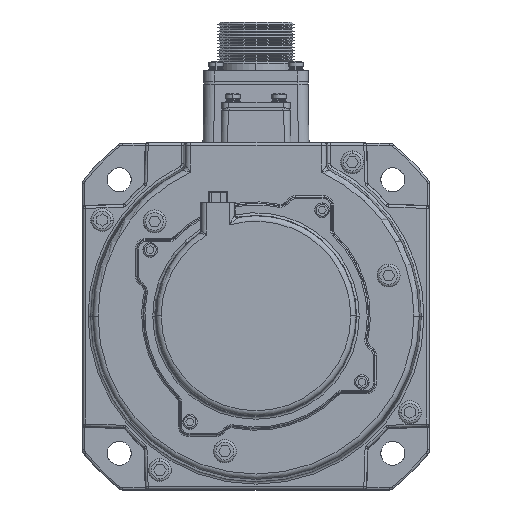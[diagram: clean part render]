
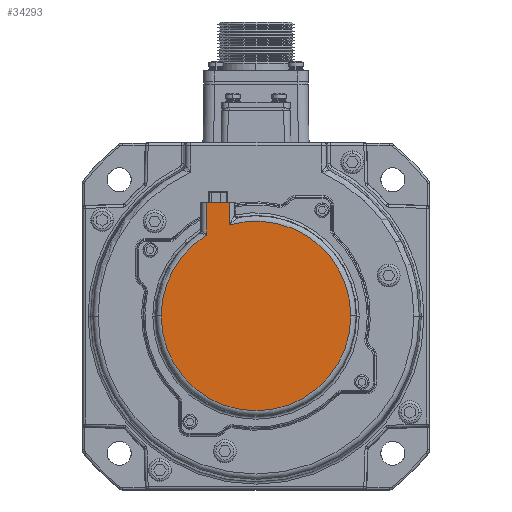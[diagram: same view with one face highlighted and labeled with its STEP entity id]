
A CAD part, top view. The second image highlights one B-rep face of the part: STEP entity #34293.
In plain terms, the highlighted planar face has unit normal (0, 0, 1).
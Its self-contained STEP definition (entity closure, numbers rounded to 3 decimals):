
#2288 = DIRECTION ( 'NONE',  ( 0., 0., 1. ) ) ;
#2920 = AXIS2_PLACEMENT_3D ( 'NONE', #64389, #39135, #6871 ) ;
#4591 = VERTEX_POINT ( 'NONE', #136120 ) ;
#5896 = EDGE_CURVE ( 'NONE', #121860, #4591, #27589, .T. ) ;
#6840 = LINE ( 'NONE', #117110, #87470 ) ;
#6871 = DIRECTION ( 'NONE',  ( 1., 0., 0. ) ) ;
#9786 = DIRECTION ( 'NONE',  ( 0., -1., 0. ) ) ;
#19199 = VERTEX_POINT ( 'NONE', #38034 ) ;
#20855 = VERTEX_POINT ( 'NONE', #66224 ) ;
#26282 = LINE ( 'NONE', #66048, #82269 ) ;
#26570 = DIRECTION ( 'NONE',  ( 0., 0., 1. ) ) ;
#27589 = CIRCLE ( 'NONE', #2920, 35.528 ) ;
#28402 = CIRCLE ( 'NONE', #114773, 35.528 ) ;
#29912 = CARTESIAN_POINT ( 'NONE',  ( -8.872, -56.273, -18.537 ) ) ;
#34293 = ADVANCED_FACE ( 'NONE', ( #63394 ), #61167, .T. ) ;
#36018 = EDGE_CURVE ( 'NONE', #115126, #92680, #28402, .T. ) ;
#38034 = CARTESIAN_POINT ( 'NONE',  ( -27.4, -13.773, -18.537 ) ) ;
#38278 = EDGE_CURVE ( 'NONE', #4591, #20855, #6840, .T. ) ;
#39135 = DIRECTION ( 'NONE',  ( 0., 0., 1. ) ) ;
#42995 = EDGE_LOOP ( 'NONE', ( #58715, #62301, #129379, #55153, #114319, #119915 ) ) ;
#45293 = DIRECTION ( 'NONE',  ( 1., 0., 0. ) ) ;
#55153 = ORIENTED_EDGE ( 'NONE', *, *, #70405, .T. ) ;
#55376 = CARTESIAN_POINT ( 'NONE',  ( 26.656, -56.273, -18.537 ) ) ;
#58715 = ORIENTED_EDGE ( 'NONE', *, *, #88411, .F. ) ;
#61167 = PLANE ( 'NONE',  #133785 ) ;
#62301 = ORIENTED_EDGE ( 'NONE', *, *, #126481, .T. ) ;
#63085 = CARTESIAN_POINT ( 'NONE',  ( -27.4, -24.873, -18.537 ) ) ;
#63394 = FACE_OUTER_BOUND ( 'NONE', #42995, .T. ) ;
#64389 = CARTESIAN_POINT ( 'NONE',  ( -8.872, -56.273, -18.537 ) ) ;
#65274 = CARTESIAN_POINT ( 'NONE',  ( -8.872, -56.273, -18.537 ) ) ;
#66048 = CARTESIAN_POINT ( 'NONE',  ( -16.872, -13.773, -18.537 ) ) ;
#66224 = CARTESIAN_POINT ( 'NONE',  ( -18.844, -13.773, -18.537 ) ) ;
#70405 = EDGE_CURVE ( 'NONE', #92680, #121860, #136668, .T. ) ;
#71841 = LINE ( 'NONE', #63085, #96574 ) ;
#72231 = CARTESIAN_POINT ( 'NONE',  ( -27.4, -25.959, -18.537 ) ) ;
#72267 = DIRECTION ( 'NONE',  ( 1., 0., 0. ) ) ;
#75869 = DIRECTION ( 'NONE',  ( 1., 0., 0. ) ) ;
#82269 = VECTOR ( 'NONE', #45293, 1000. ) ;
#87470 = VECTOR ( 'NONE', #95965, 1000. ) ;
#88411 = EDGE_CURVE ( 'NONE', #19199, #20855, #26282, .T. ) ;
#89581 = CARTESIAN_POINT ( 'NONE',  ( -8.872, -56.273, -18.537 ) ) ;
#92680 = VERTEX_POINT ( 'NONE', #103516 ) ;
#95965 = DIRECTION ( 'NONE',  ( 0., 1., 0. ) ) ;
#96574 = VECTOR ( 'NONE', #9786, 1000. ) ;
#100248 = DIRECTION ( 'NONE',  ( 1., 0., 0. ) ) ;
#103516 = CARTESIAN_POINT ( 'NONE',  ( -44.4, -56.273, -18.537 ) ) ;
#114194 = AXIS2_PLACEMENT_3D ( 'NONE', #89581, #26570, #100248 ) ;
#114319 = ORIENTED_EDGE ( 'NONE', *, *, #5896, .T. ) ;
#114773 = AXIS2_PLACEMENT_3D ( 'NONE', #65274, #2288, #75869 ) ;
#115126 = VERTEX_POINT ( 'NONE', #72231 ) ;
#117110 = CARTESIAN_POINT ( 'NONE',  ( -18.844, -13.773, -18.537 ) ) ;
#119915 = ORIENTED_EDGE ( 'NONE', *, *, #38278, .T. ) ;
#121860 = VERTEX_POINT ( 'NONE', #55376 ) ;
#126481 = EDGE_CURVE ( 'NONE', #19199, #115126, #71841, .T. ) ;
#129379 = ORIENTED_EDGE ( 'NONE', *, *, #36018, .T. ) ;
#133785 = AXIS2_PLACEMENT_3D ( 'NONE', #29912, #135362, #72267 ) ;
#135362 = DIRECTION ( 'NONE',  ( 0., 0., 1. ) ) ;
#136120 = CARTESIAN_POINT ( 'NONE',  ( -18.844, -22.174, -18.537 ) ) ;
#136668 = CIRCLE ( 'NONE', #114194, 35.528 ) ;
